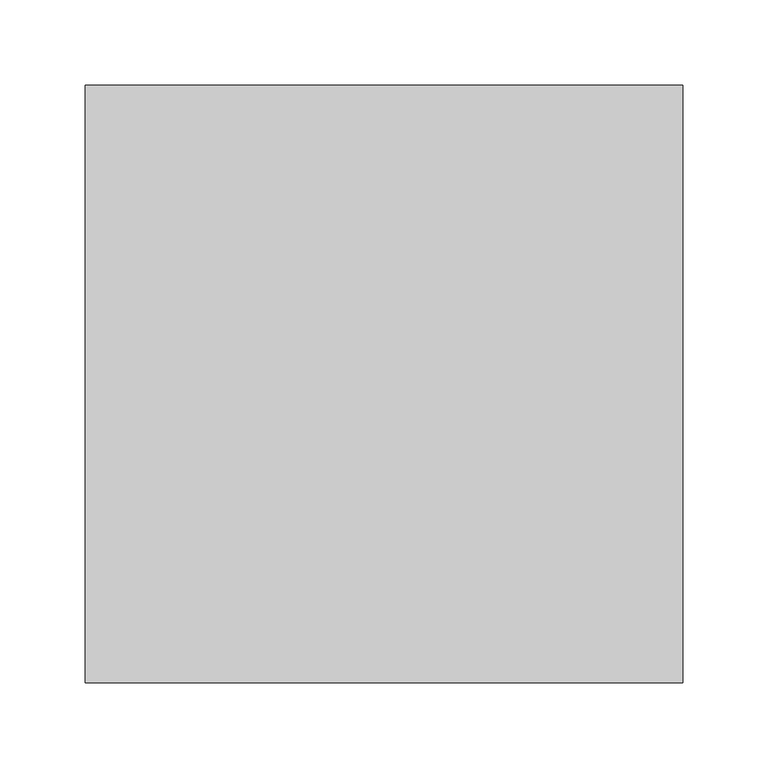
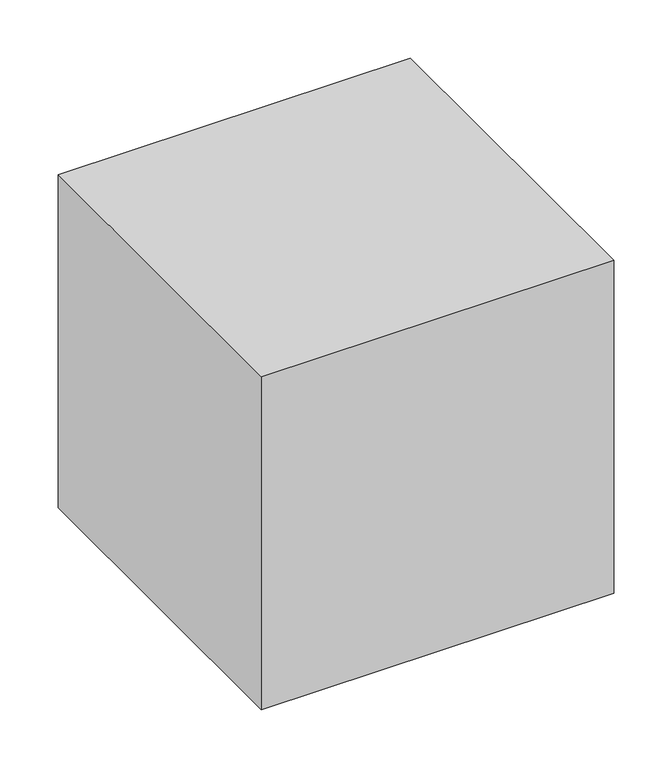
"""IFC4 building model written with IfcOpenShell, lengths in millimetres: proxy geometry, 制気口ボックス : 制気口ボックス."""

from ifc_helpers import new_model, si_unit, frame, origin, place, context, project, spatial, polyline, outline, extrude, source, transform, mapped, element, save


def mechanical_equipment_efe6e0d0(model_context):
    return source(origin(), model_context, "Body", "SweptSolid", [
        extrude(outline(polyline([(175.0, 175.0), (175.0, -175.0), (-175.0, -175.0), (-175.0, 175.0), (175.0, 175.0)])), frame((0.0, 0.0, -175.0), z_axis=(0.0, 0.0, 1.0), x_axis=(1.0, 0.0, 0.0)), (0.0, 0.0, 1.0), 350.0),
    ])


if __name__ == "__main__":
    model = new_model("IFC4")
    model_context = context("Model", 3, world=origin())
    ifc_project = project(units=[si_unit("LENGTHUNIT", "METRE", prefix="MILLI")], contexts=[model_context])
    site = spatial("IfcSite", under=ifc_project)
    building = spatial("IfcBuilding", under=site)
    placement = place(None, origin())
    mechanical_equipment_shape = mechanical_equipment_efe6e0d0(model_context)
    element("IfcBuildingElementProxy", 1, Name="制気口ボックス : 制気口ボックス", ObjectType="制気口ボックス : 制気口ボックス", at=placement, inside=building, context=model_context, shape_type="MappedRepresentation", body=[
        mapped(mechanical_equipment_shape, transform((0.0, 0.0, 0.0), x_axis=(1.0, 0.0, 0.0), y_axis=(0.0, 1.0, 0.0), z_axis=(0.0, 0.0, 1.0))),
    ])
    save(model, "model.ifc")
